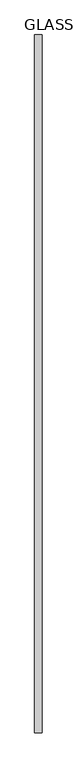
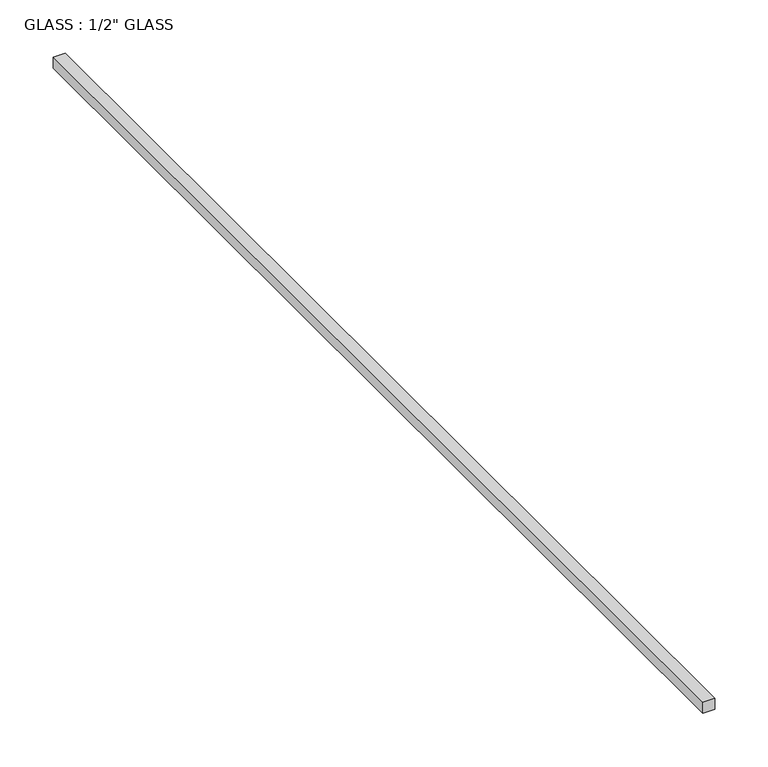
"""IFC4 building model written with IfcOpenShell, lengths in millimetres: proxy geometry."""

from ifc_helpers import new_model, si_unit, frame, origin, place, context, project, spatial, polyline, outline, extrude, source, transform, mapped, element, save


def proxy_6f78a48f(model_context):
    return source(origin(), model_context, "Body", "SweptSolid", [
        extrude(outline(polyline([(-6.35, 0.0), (6.35, 0.0), (6.35, -1219.2), (-6.35, -1219.2), (-6.35, 0.0)])), frame((0.0, 0.0, -6.35), z_axis=(0.0, 0.0, 1.0), x_axis=(1.0, 0.0, 0.0)), (0.0, 0.0, 1.0), 12.7),
    ])


if __name__ == "__main__":
    model = new_model("IFC4")
    model_context = context("Model", 3, world=origin())
    ifc_project = project(units=[si_unit("LENGTHUNIT", "METRE", prefix="MILLI")], contexts=[model_context])
    site = spatial("IfcSite", under=ifc_project)
    building = spatial("IfcBuilding", under=site)
    placement = place(None, origin())
    proxy_shape = proxy_6f78a48f(model_context)
    element("IfcBuildingElementProxy", 1, Name="GLASS : 1/2\" GLASS", ObjectType="GLASS : 1/2\" GLASS", at=placement, inside=building, context=model_context, shape_type="MappedRepresentation", body=[
        mapped(proxy_shape, transform((0.0, 0.0, 0.0), x_axis=(1.0, 0.0, 0.0), y_axis=(0.0, 1.0, 0.0), z_axis=(0.0, 0.0, 1.0))),
    ])
    save(model, "model.ifc")
